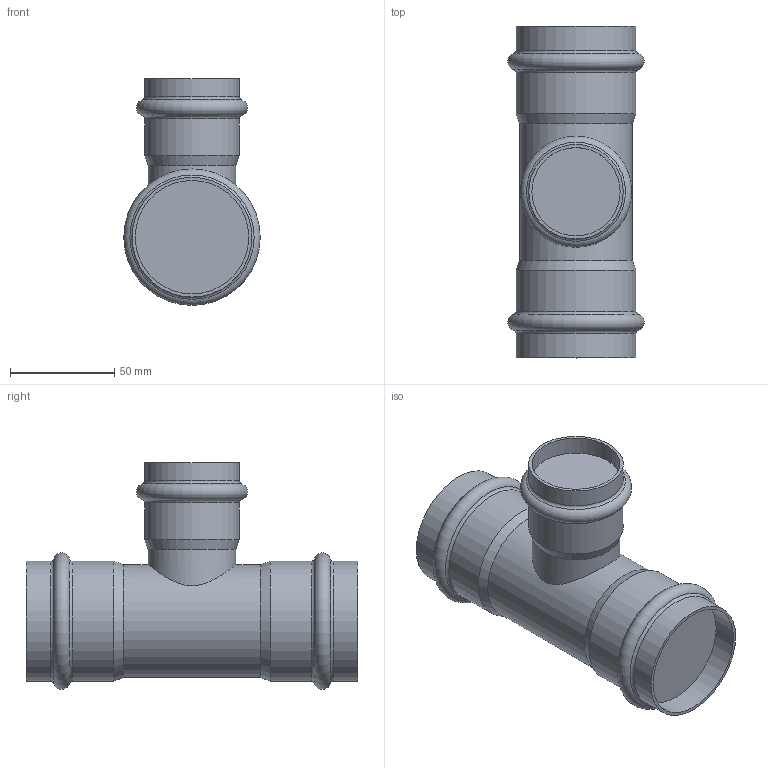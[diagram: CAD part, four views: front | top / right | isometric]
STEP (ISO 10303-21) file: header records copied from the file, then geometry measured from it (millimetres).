
FILE_DESCRIPTION(('STEP AP203'), '1');
FILE_NAME('VTi.931.I.544254', '', ('UNSPECIFIED'), ('UNSPECIFIED'), 'C3D Converter', 'C3D Toolkit', '');
FILE_SCHEMA(('CONFIG_CONTROL_DESIGN'));
Length unit declared in the file: millimetre
Bounding box: 65.38 x 159 x 108.69 mm (x, y, z)
Volume: 417459 mm3; surface area: 48430.1 mm2
Topology: 1 solids, 1 shells, 29 faces, 53 edges, 29 vertices
Faces by surface type: cylinder 11, torus 9, plane 6, cone 3
Full cylindrical faces by diameter (mm): 42 x1, 42.3 x1, 45.3 x2, 54 x1, 54.4 x2, 57.4 x4
Entity records: 854 total; most frequent: CARTESIAN_POINT 324, DIRECTION 114, ORIENTED_EDGE 58, AXIS2_PLACEMENT_3D 57, EDGE_LOOP 56, FACE_OUTER_BOUND 45, ADVANCED_FACE 29, EDGE_CURVE 29
